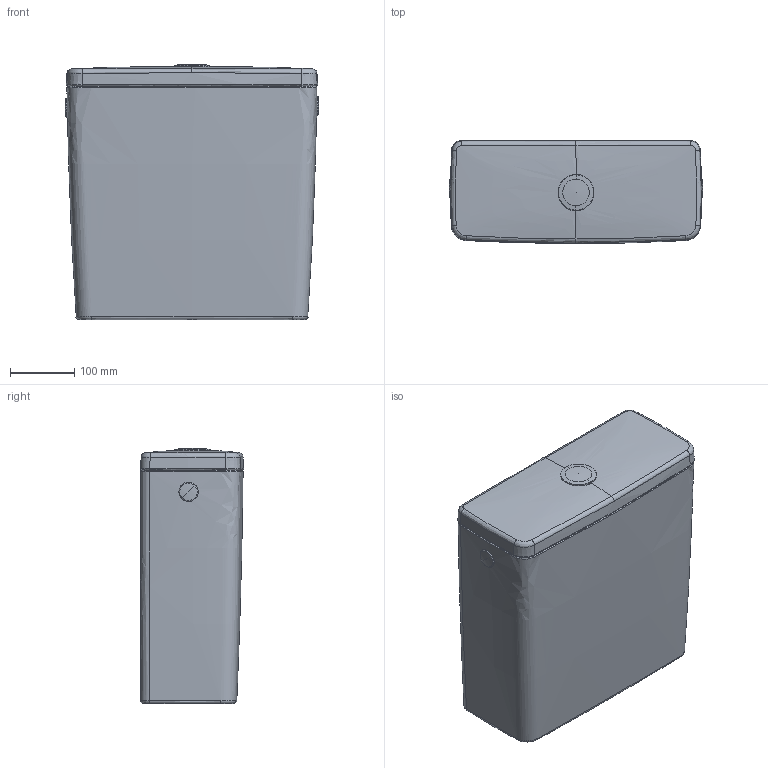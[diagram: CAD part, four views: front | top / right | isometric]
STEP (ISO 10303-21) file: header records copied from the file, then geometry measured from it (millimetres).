
FILE_DESCRIPTION(/* description */ (''),/* implementation_level */ '2;1');
FILE_NAME(/* name */ 'Kombi_824081-6_82708x_Tank_stp.stp',/* time_stamp */ '2022-02-24T15:13:12+01:00',/* author */ (''),/* organization */ (''),/* preprocessor_version */ 'ST-DEVELOPER v16.7',/* originating_system */ 'SIEMENS PLM Software NX 1946',/* authorisation */ '');
FILE_SCHEMA (('AUTOMOTIVE_DESIGN { 1 0 10303 214 3 1 1 1 }'));
Length unit declared in the file: millimetre
Products named in the file (1): stoj70DC1AFEsqgo
Bounding box: 394.95 x 160.67 x 397.56 mm (x, y, z)
Volume: 22324574.6 mm3; surface area: 516012 mm2
Topology: 1 solids, 1 shells, 143 faces, 352 edges, 210 vertices
Faces by surface type: bspline 75, cylinder 29, plane 18, cone 10, torus 6, sphere 5
Full cylindrical faces by diameter (mm): 15 x2
Entity records: 10358 total; most frequent: CARTESIAN_POINT 7471, ORIENTED_EDGE 680, DIRECTION 453, EDGE_CURVE 340, VERTEX_POINT 205, AXIS2_PLACEMENT_3D 189, EDGE_LOOP 149, B_SPLINE_CURVE_WITH_KNOTS 146
